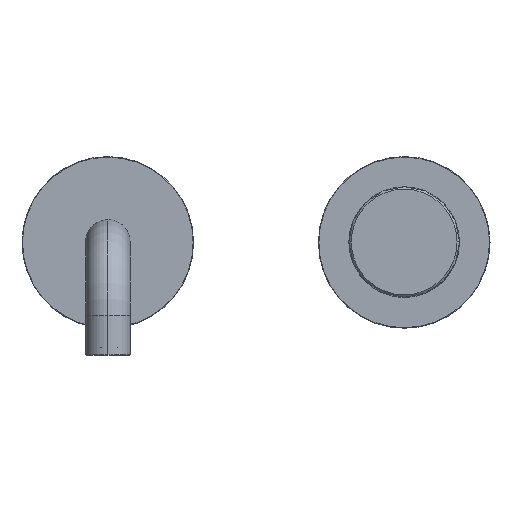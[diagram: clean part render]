
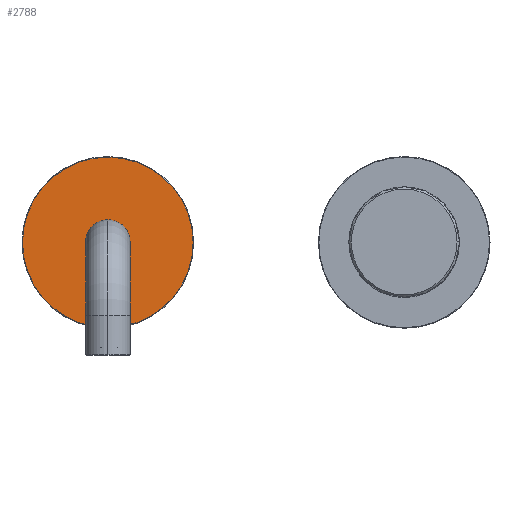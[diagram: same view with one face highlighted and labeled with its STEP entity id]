
A CAD part, top view. The second image highlights one B-rep face of the part: STEP entity #2788.
In plain terms, the highlighted planar face has unit normal (0, 0, 1).
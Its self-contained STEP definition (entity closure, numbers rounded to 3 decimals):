
#1208=CARTESIAN_POINT('',(-120.,0.,0.));
#1209=DIRECTION('',(0.,0.,1.));
#1210=DIRECTION('',(1.,0.,0.));
#1211=AXIS2_PLACEMENT_3D('',#1208,#1209,#1210);
#1213=CARTESIAN_POINT('',(-120.,0.,0.));
#1214=DIRECTION('',(0.,0.,1.));
#1215=DIRECTION('',(-1.,0.,0.));
#1216=AXIS2_PLACEMENT_3D('',#1213,#1214,#1215);
#1223=CARTESIAN_POINT('',(-120.,0.,0.));
#1224=DIRECTION('',(0.,0.,1.));
#1225=DIRECTION('',(0.,1.,0.));
#1226=AXIS2_PLACEMENT_3D('',#1223,#1224,#1225);
#1232=CARTESIAN_POINT('',(-120.,0.,0.));
#1233=DIRECTION('',(0.,0.,1.));
#1234=DIRECTION('',(0.,-1.,0.));
#1235=AXIS2_PLACEMENT_3D('',#1232,#1233,#1234);
#2635=CARTESIAN_POINT('',(-85.45,0.,0.));
#2636=CARTESIAN_POINT('',(-154.55,0.,0.));
#2637=VERTEX_POINT('',#2635);
#2638=VERTEX_POINT('',#2636);
#2675=CARTESIAN_POINT('',(-120.,8.8,0.));
#2676=CARTESIAN_POINT('',(-120.,-8.8,0.));
#2677=VERTEX_POINT('',#2675);
#2678=VERTEX_POINT('',#2676);
#2772=CARTESIAN_POINT('',(-120.,0.,0.));
#2773=DIRECTION('',(0.,0.,-1.));
#2774=DIRECTION('',(-1.,0.,0.));
#2775=AXIS2_PLACEMENT_3D('',#2772,#2773,#2774);
#2776=PLANE('',#2775);
#2777=ORIENTED_EDGE('',*,*,#2762,.F.);
#2779=ORIENTED_EDGE('',*,*,#2778,.F.);
#2780=EDGE_LOOP('',(#2777,#2779));
#2781=FACE_OUTER_BOUND('',#2780,.F.);
#2783=ORIENTED_EDGE('',*,*,#2782,.T.);
#2785=ORIENTED_EDGE('',*,*,#2784,.T.);
#2786=EDGE_LOOP('',(#2783,#2785));
#2787=FACE_BOUND('',#2786,.F.);
#2788=ADVANCED_FACE('',(#2781,#2787),#2776,.F.);
#1212=CIRCLE('',#1211,34.55);
#1217=CIRCLE('',#1216,34.55);
#1227=CIRCLE('',#1226,8.8);
#1236=CIRCLE('',#1235,8.8);
#2762=EDGE_CURVE('',#2637,#2638,#1212,.T.);
#2778=EDGE_CURVE('',#2638,#2637,#1217,.T.);
#2782=EDGE_CURVE('',#2677,#2678,#1227,.T.);
#2784=EDGE_CURVE('',#2678,#2677,#1236,.T.);
